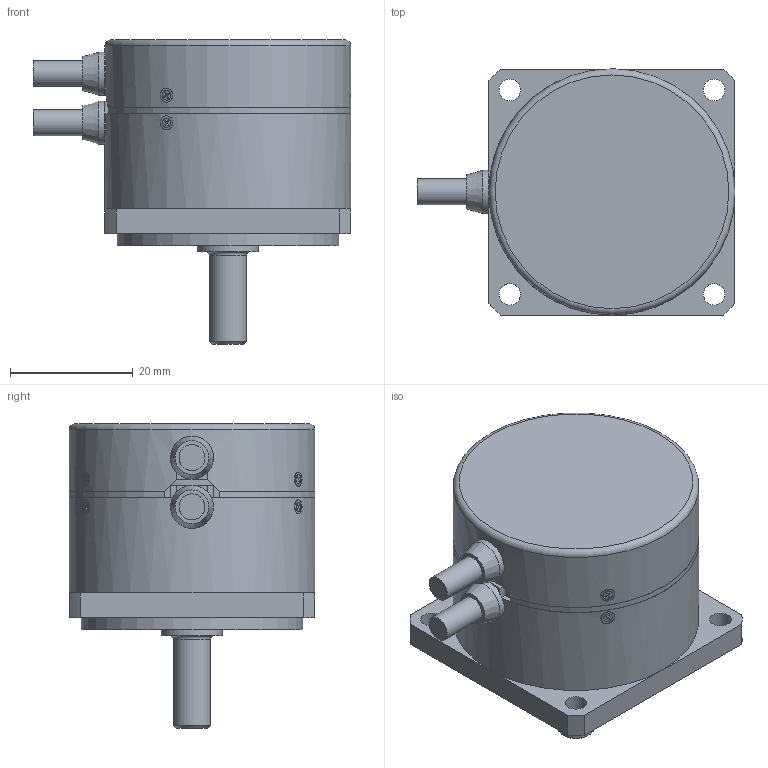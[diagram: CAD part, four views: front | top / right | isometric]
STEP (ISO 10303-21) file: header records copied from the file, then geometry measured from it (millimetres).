
FILE_DESCRIPTION(('STEP AP214'),'1');
FILE_NAME('MDS-4006.stp','2017-10-10T07:30:30',(' '),(' '),'Spatial InterOp 3D',' ',' ');
FILE_SCHEMA(('automotive_design'));
Length unit declared in the file: millimetre
Products named in the file (10): ケーブル; タッピングネジ M1.4x2.2; サラコネジ M1.4x2.5; ｱﾝｷﾞｭﾗﾍﾞｱﾘﾝｸﾞ MTA08-19; ブッシュ; カバー_S; ベース; シャフト_S4006; ケース_4006
Assembly tree (16 placements, depth 2):
  (unnamed)
    ケーブル  x2
    タッピングネジ M1.4x2.2  x3
    サラコネジ M1.4x2.5  x3
    ｱﾝｷﾞｭﾗﾍﾞｱﾘﾝｸﾞ MTA08-19  x2
    ブッシュ  x2
    カバー_S
    ベース
    シャフト_S4006
    ケース_4006
Bounding box: 51.7 x 40 x 49.5 mm (x, y, z)
Volume: 20438.4 mm3; surface area: 23272.6 mm2
Topology: 16 solids, 18 shells, 312 faces, 731 edges, 477 vertices
Faces by surface type: plane 190, cylinder 94, cone 25, torus 3
Full cylindrical faces by diameter (mm): 1.1 x6, 1.4 x12, 1.5 x3, 1.6 x9, 2.3 x6, 3.5 x4, 4.2 x4, 6 x1, 7 x2, 8 x4, 10 x1, 11 x4, 12 x2, 15 x2, 16 x4, 17 x2, 19 x4, 24 x1, 36 x1, 37 x1, 38 x1, 38.2 x1, 39 x2, 40 x2
Entity records: 7622 total; most frequent: CARTESIAN_POINT 1603, DIRECTION 891, ORIENTED_EDGE 720, EDGE_CURVE 360, AXIS2_PLACEMENT_3D 348, EDGE_LOOP 325, VERTEX_POINT 278, FACE_OUTER_BOUND 256
